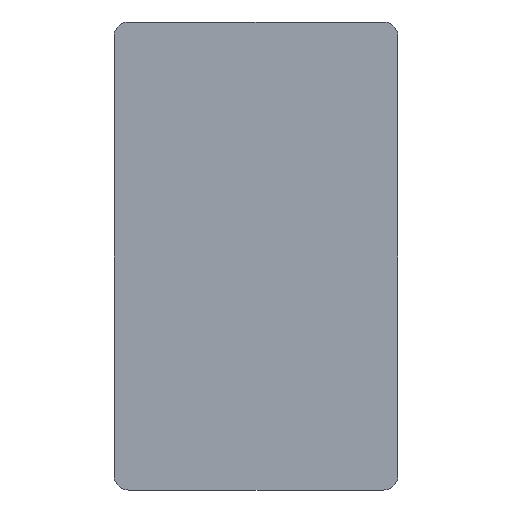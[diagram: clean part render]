
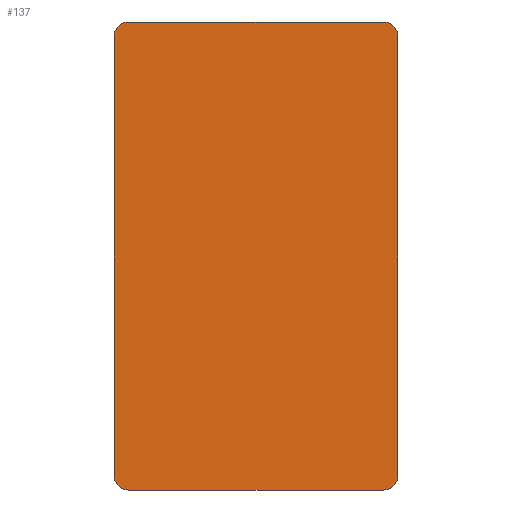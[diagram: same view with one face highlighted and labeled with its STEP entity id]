
A CAD part, front view. The second image highlights one B-rep face of the part: STEP entity #137.
In plain terms, the highlighted planar face has unit normal (0, -1, 0).
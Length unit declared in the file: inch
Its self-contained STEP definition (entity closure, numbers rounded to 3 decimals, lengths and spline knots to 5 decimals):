
#90 = VERTEX_POINT ( 'NONE', #370 ) ;
#95 = EDGE_CURVE ( 'NONE', #186, #256, #414, .T. ) ;
#135 = EDGE_CURVE ( 'NONE', #157, #172, #490, .T. ) ;
#137 = ADVANCED_FACE ( 'NONE', ( #485 ), #487, .T. ) ;
#138 = EDGE_LOOP ( 'NONE', ( #139, #140, #141, #142, #143, #144, #145, #146 ) ) ;
#139 = ORIENTED_EDGE ( 'NONE', *, *, #156, .F. ) ;
#140 = ORIENTED_EDGE ( 'NONE', *, *, #95, .F. ) ;
#141 = ORIENTED_EDGE ( 'NONE', *, *, #191, .F. ) ;
#142 = ORIENTED_EDGE ( 'NONE', *, *, #252, .F. ) ;
#143 = ORIENTED_EDGE ( 'NONE', *, *, #228, .F. ) ;
#144 = ORIENTED_EDGE ( 'NONE', *, *, #165, .F. ) ;
#145 = ORIENTED_EDGE ( 'NONE', *, *, #174, .F. ) ;
#146 = ORIENTED_EDGE ( 'NONE', *, *, #135, .F. ) ;
#156 = EDGE_CURVE ( 'NONE', #256, #157, #503, .T. ) ;
#157 = VERTEX_POINT ( 'NONE', #496 ) ;
#163 = VERTEX_POINT ( 'NONE', #674 ) ;
#165 = EDGE_CURVE ( 'NONE', #163, #226, #607, .T. ) ;
#172 = VERTEX_POINT ( 'NONE', #670 ) ;
#174 = EDGE_CURVE ( 'NONE', #172, #163, #645, .T. ) ;
#186 = VERTEX_POINT ( 'NONE', #675 ) ;
#189 = VERTEX_POINT ( 'NONE', #664 ) ;
#191 = EDGE_CURVE ( 'NONE', #189, #186, #616, .T. ) ;
#226 = VERTEX_POINT ( 'NONE', #504 ) ;
#228 = EDGE_CURVE ( 'NONE', #226, #90, #505, .T. ) ;
#252 = EDGE_CURVE ( 'NONE', #90, #189, #604, .T. ) ;
#256 = VERTEX_POINT ( 'NONE', #600 ) ;
#370 = CARTESIAN_POINT ( 'NONE',  ( -0.5495, -0.06, 1.01 ) ) ;
#410 = DIRECTION ( 'NONE',  ( 0., 0., -1. ) ) ;
#414 = LINE ( 'NONE', #415, #416 ) ;
#415 = CARTESIAN_POINT ( 'NONE',  ( 0.6125, -0.06, -0.947 ) ) ;
#416 = VECTOR ( 'NONE', #410, 39.37008 ) ;
#480 = DIRECTION ( 'NONE',  ( 0., 0., -1. ) ) ;
#481 = DIRECTION ( 'NONE',  ( 0., -1., 0. ) ) ;
#482 = CARTESIAN_POINT ( 'NONE',  ( 0.5495, -0.06, -0.947 ) ) ;
#483 = AXIS2_PLACEMENT_3D ( 'NONE', #482, #481, #480 ) ;
#485 = FACE_OUTER_BOUND ( 'NONE', #138, .T. ) ;
#486 = VECTOR ( 'NONE', #488, 39.37008 ) ;
#487 = PLANE ( 'NONE',  #483 ) ;
#488 = DIRECTION ( 'NONE',  ( -1., 0., 0. ) ) ;
#489 = CARTESIAN_POINT ( 'NONE',  ( -0.5495, -0.06, -1.01 ) ) ;
#490 = LINE ( 'NONE', #489, #486 ) ;
#494 = CARTESIAN_POINT ( 'NONE',  ( 0.5495, -0.06, -0.947 ) ) ;
#496 = CARTESIAN_POINT ( 'NONE',  ( 0.5495, -0.06, -1.01 ) ) ;
#497 = DIRECTION ( 'NONE',  ( 0., 0., -1. ) ) ;
#502 = AXIS2_PLACEMENT_3D ( 'NONE', #494, #691, #497 ) ;
#503 = CIRCLE ( 'NONE', #502, 0.063 ) ;
#504 = CARTESIAN_POINT ( 'NONE',  ( -0.6125, -0.06, 0.947 ) ) ;
#505 = CIRCLE ( 'NONE', #547, 0.063 ) ;
#544 = DIRECTION ( 'NONE',  ( 0., 0., 1. ) ) ;
#545 = DIRECTION ( 'NONE',  ( 0., 1., 0. ) ) ;
#546 = CARTESIAN_POINT ( 'NONE',  ( -0.5495, -0.06, 0.947 ) ) ;
#547 = AXIS2_PLACEMENT_3D ( 'NONE', #546, #545, #544 ) ;
#593 = DIRECTION ( 'NONE',  ( 0., 0., 1. ) ) ;
#594 = VECTOR ( 'NONE', #593, 39.37008 ) ;
#600 = CARTESIAN_POINT ( 'NONE',  ( 0.6125, -0.06, -0.947 ) ) ;
#601 = DIRECTION ( 'NONE',  ( 1., 0., 0. ) ) ;
#602 = VECTOR ( 'NONE', #601, 39.37008 ) ;
#603 = CARTESIAN_POINT ( 'NONE',  ( -0.5495, -0.06, 1.01 ) ) ;
#604 = LINE ( 'NONE', #603, #602 ) ;
#606 = CARTESIAN_POINT ( 'NONE',  ( -0.6125, -0.06, -0.947 ) ) ;
#607 = LINE ( 'NONE', #606, #594 ) ;
#613 = DIRECTION ( 'NONE',  ( 0., 0., 1. ) ) ;
#614 = DIRECTION ( 'NONE',  ( 0., 1., 0. ) ) ;
#615 = AXIS2_PLACEMENT_3D ( 'NONE', #662, #614, #613 ) ;
#616 = CIRCLE ( 'NONE', #615, 0.063 ) ;
#617 = DIRECTION ( 'NONE',  ( 0., 0., -1. ) ) ;
#618 = DIRECTION ( 'NONE',  ( 0., 1., 0. ) ) ;
#643 = CARTESIAN_POINT ( 'NONE',  ( -0.5495, -0.06, -0.947 ) ) ;
#644 = AXIS2_PLACEMENT_3D ( 'NONE', #643, #618, #617 ) ;
#645 = CIRCLE ( 'NONE', #644, 0.063 ) ;
#662 = CARTESIAN_POINT ( 'NONE',  ( 0.5495, -0.06, 0.947 ) ) ;
#664 = CARTESIAN_POINT ( 'NONE',  ( 0.5495, -0.06, 1.01 ) ) ;
#670 = CARTESIAN_POINT ( 'NONE',  ( -0.5495, -0.06, -1.01 ) ) ;
#674 = CARTESIAN_POINT ( 'NONE',  ( -0.6125, -0.06, -0.947 ) ) ;
#675 = CARTESIAN_POINT ( 'NONE',  ( 0.6125, -0.06, 0.947 ) ) ;
#691 = DIRECTION ( 'NONE',  ( 0., 1., 0. ) ) ;
